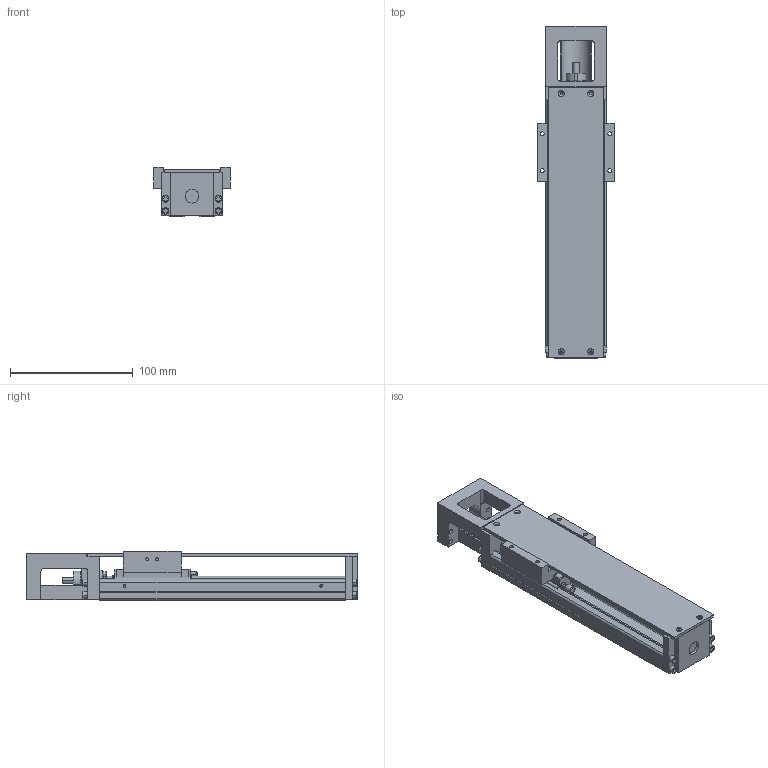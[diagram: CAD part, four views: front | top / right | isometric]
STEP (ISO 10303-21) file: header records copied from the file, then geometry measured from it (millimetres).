
FILE_DESCRIPTION(('no description'),'unknown implementation level');
FILE_NAME('KK5002P200A1F0C00_FILE_17.stp',' ',('HIWIN GmbH'),('CADClick - KiM GmbH - www.kimweb.de'),'unknown preprocess','ACIS','unknown authorization');
FILE_SCHEMA(('automotive_design'));
Length unit declared in the file: millimetre
Products named in the file (2): KK50_FILE; KK5002P200A1F0C00_FILE
Bounding box: 62 x 270 x 40 mm (x, y, z)
Volume: 265268.6 mm3; surface area: 101476.4 mm2
Topology: 2 solids, 14 shells, 830 faces, 2102 edges, 1329 vertices
Faces by surface type: plane 483, cylinder 239, cone 66, torus 42
Entity records: 48922 total; most frequent: CARTESIAN_POINT 4831, DIRECTION 4358, STYLED_ITEM 4229, PRESENTATION_STYLE_ASSIGNMENT 4229, COLOUR_RGB 4229, ORIENTED_EDGE 4136, EDGE_CURVE 2068, CURVE_STYLE 2068
